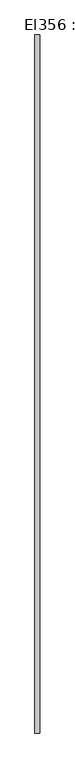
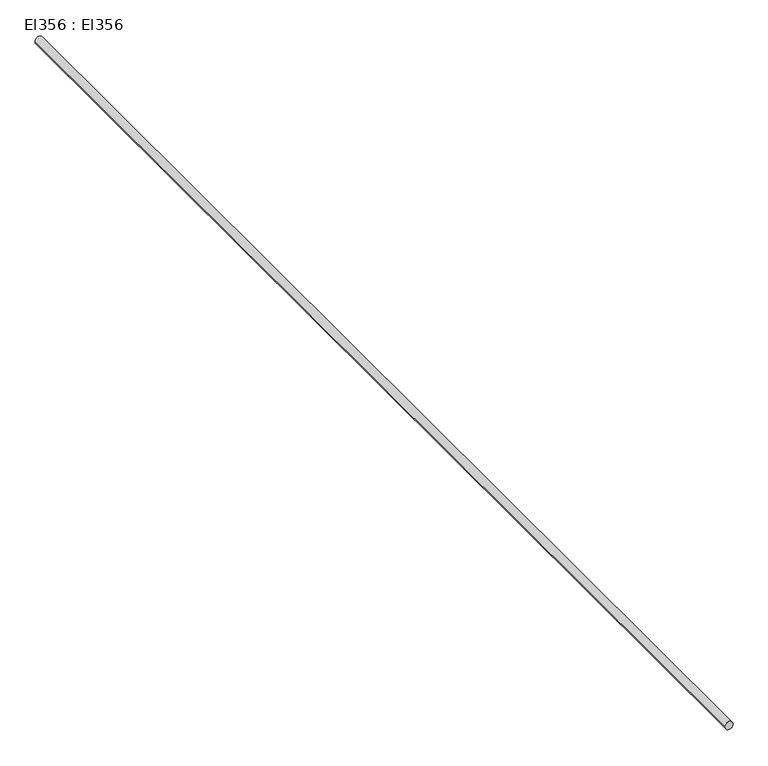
"""IFC4 building model written with IfcOpenShell, lengths in millimetres: cable carrier segment geometry, El356 : El356."""

from ifc_helpers import new_model, si_unit, point, frame, frame_2d, origin, place, context, project, spatial, circle_curve, trimmed, segment, composite_curve, outline, extrude, source, transform, mapped, element, save


def el356_el356_c64c2d04(model_context):
    return source(origin(), model_context, "Body", "SweptSolid", [
        extrude(outline(composite_curve([segment(trimmed(circle_curve(frame_2d((0.0, 6846.59)), 37.5), [point((0.0, 6809.09))], [point((0.0, 6884.09))], False, "CARTESIAN"), True, "CONTINUOUS"), segment(trimmed(circle_curve(frame_2d((0.0, 6846.59)), 37.5), [point((0.0, 6884.09))], [point((0.0, 6809.09))], False, "CARTESIAN"), True, "CONTINUOUS")], self_intersect=False)), frame((0.0, 15343.13, 0.0), z_axis=(0.0, 1.0, 0.0), x_axis=(0.0, 0.0, 1.0)), (0.0, 0.0, 1.0), 10712.1),
    ])


if __name__ == "__main__":
    model = new_model("IFC4")
    model_context = context("Model", 3, world=origin())
    ifc_project = project(units=[si_unit("LENGTHUNIT", "METRE", prefix="MILLI")], contexts=[model_context])
    site = spatial("IfcSite", under=ifc_project)
    building = spatial("IfcBuilding", under=site)
    placement = place(None, origin())
    el356_el356_shape = el356_el356_c64c2d04(model_context)
    element("IfcCableCarrierSegment", 1, ObjectType="El356 : El356", at=placement, inside=building, context=model_context, shape_type="MappedRepresentation", body=[
        mapped(el356_el356_shape, transform((0.0, 0.0, 0.0), x_axis=(1.0, 0.0, 0.0), y_axis=(0.0, 1.0, 0.0), z_axis=(0.0, 0.0, 1.0))),
    ])
    save(model, "model.ifc")
